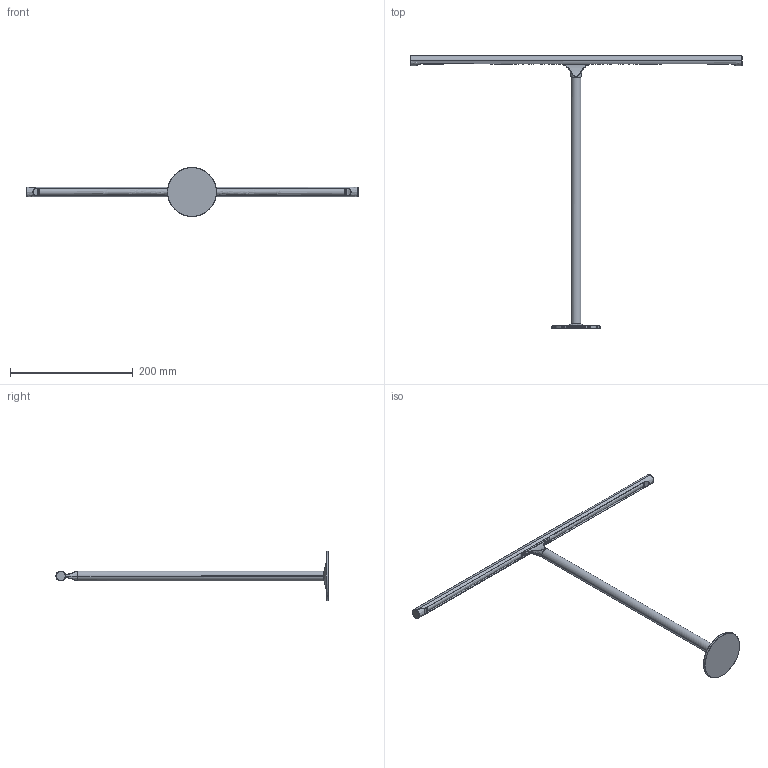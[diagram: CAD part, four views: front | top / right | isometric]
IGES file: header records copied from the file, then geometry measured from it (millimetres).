
Start section: SolidWorks IGES file using analytic representation for surfaces
Global section: file name: C:\Users\scott\Dropbox\Rakumba Industrial Design\PRODUCT\2 DEVELOPMENT\GALLERY\CAD\Gallery Lightweight CAD\Gallery - Integrated 540 Bankers Lamp.IGS; native system: SolidWorks 2017; preprocessor: SolidWorks 2017; author: scott; date: 240403.172632; units: millimetre
Bounding box: 540 x 443 x 80 mm (x, y, z)
Surface area: 80017.6 mm2 (no closed solid volume)
Topology: 0 solids, 0 shells, 194 faces, 2933 edges, 2929 vertices
Faces by surface type: bspline 127, revolution 67
